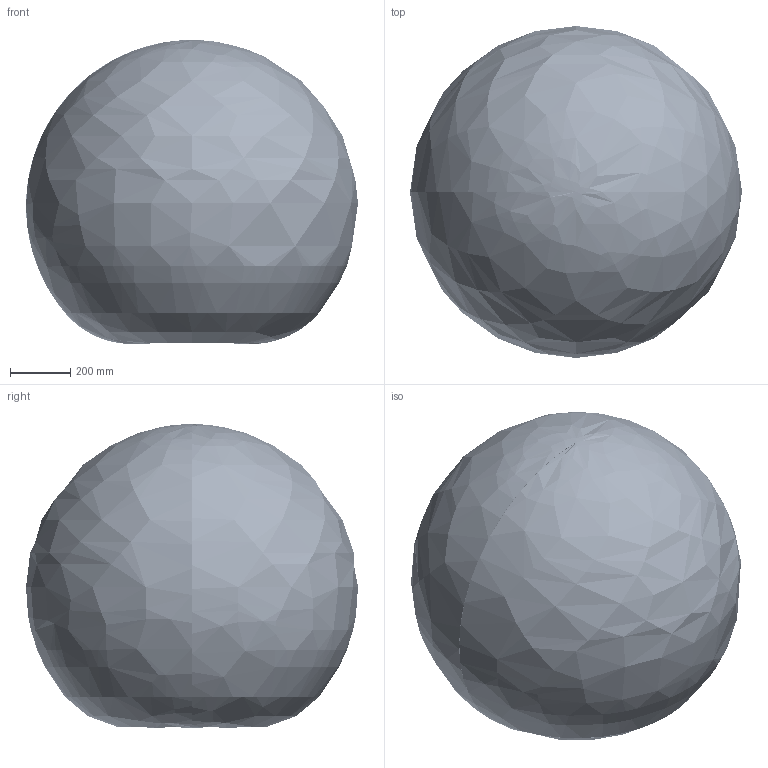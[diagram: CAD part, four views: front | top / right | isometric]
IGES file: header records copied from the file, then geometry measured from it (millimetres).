
Start section: SolidWorks IGES file using analytic representation for surfaces
Global section: file name: C:\Users\jevnim\Desktop\Modeli-Robotov\NEX4-06VX4-C00\with range\06VX4-C00_00.IGS; native system: SolidWorks 2024; preprocessor: SolidWorks 2024; author: jevnim; date: 250926.124728; units: metre
Bounding box: 1100.67 x 1100.6 x 1007.9 mm (x, y, z)
Surface area: 5927120.7 mm2 (no closed solid volume)
Topology: 0 solids, 0 shells, 8247 faces, 82686 edges, 82644 vertices
Faces by surface type: bspline 5414, revolution 2833
